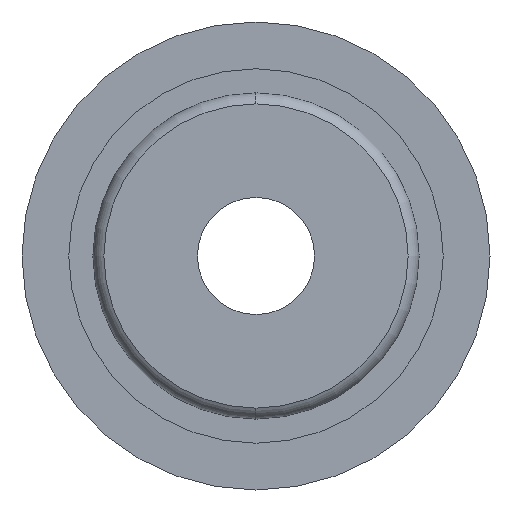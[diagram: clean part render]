
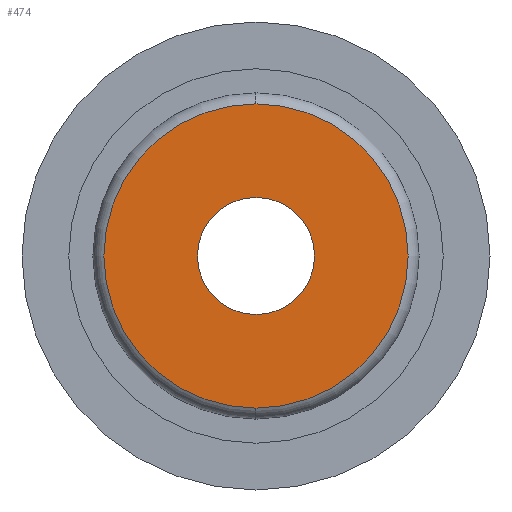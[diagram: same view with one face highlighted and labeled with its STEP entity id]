
A CAD part, left-side view. The second image highlights one B-rep face of the part: STEP entity #474.
In plain terms, the highlighted planar face has unit normal (-1, 0, 0).
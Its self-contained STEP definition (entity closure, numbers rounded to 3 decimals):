
#34 = CARTESIAN_POINT ( 'NONE',  ( 12.582, 0., 2.5 ) ) ;
#36 = CARTESIAN_POINT ( 'NONE',  ( 12.582, 0., 6.5 ) ) ;
#40 = DIRECTION ( 'NONE',  ( -1., 0., 0. ) ) ;
#49 = FACE_OUTER_BOUND ( 'NONE', #1062, .T. ) ;
#50 = CIRCLE ( 'NONE', #114, 2.5 ) ;
#59 = CIRCLE ( 'NONE', #411, 2.5 ) ;
#68 = CARTESIAN_POINT ( 'NONE',  ( 12.582, 0., -6.5 ) ) ;
#80 = DIRECTION ( 'NONE',  ( 0., 0., -1. ) ) ;
#83 = ORIENTED_EDGE ( 'NONE', *, *, #94, .T. ) ;
#94 = EDGE_CURVE ( 'NONE', #680, #435, #886, .T. ) ;
#114 = AXIS2_PLACEMENT_3D ( 'NONE', #383, #954, #455 ) ;
#133 = ORIENTED_EDGE ( 'NONE', *, *, #980, .T. ) ;
#171 = PLANE ( 'NONE',  #646 ) ;
#232 = EDGE_LOOP ( 'NONE', ( #893, #468 ) ) ;
#303 = FACE_BOUND ( 'NONE', #232, .T. ) ;
#358 = CARTESIAN_POINT ( 'NONE',  ( 12.582, 0., 0. ) ) ;
#362 = AXIS2_PLACEMENT_3D ( 'NONE', #906, #418, #1001 ) ;
#383 = CARTESIAN_POINT ( 'NONE',  ( 12.582, 0., 0. ) ) ;
#411 = AXIS2_PLACEMENT_3D ( 'NONE', #539, #40, #618 ) ;
#418 = DIRECTION ( 'NONE',  ( -1., 0., 0. ) ) ;
#420 = CARTESIAN_POINT ( 'NONE',  ( 12.582, 2.5, 0. ) ) ;
#435 = VERTEX_POINT ( 'NONE', #68 ) ;
#455 = DIRECTION ( 'NONE',  ( 0., 0., 1. ) ) ;
#468 = ORIENTED_EDGE ( 'NONE', *, *, #693, .F. ) ;
#474 = ADVANCED_FACE ( 'NONE', ( #303, #49 ), #171, .F. ) ;
#539 = CARTESIAN_POINT ( 'NONE',  ( 12.582, 0., 0. ) ) ;
#584 = VERTEX_POINT ( 'NONE', #645 ) ;
#618 = DIRECTION ( 'NONE',  ( 0., 0., 1. ) ) ;
#645 = CARTESIAN_POINT ( 'NONE',  ( 12.582, 0., -2.5 ) ) ;
#646 = AXIS2_PLACEMENT_3D ( 'NONE', #420, #900, #80 ) ;
#680 = VERTEX_POINT ( 'NONE', #36 ) ;
#693 = EDGE_CURVE ( 'NONE', #584, #815, #59, .T. ) ;
#700 = DIRECTION ( 'NONE',  ( 0., 0., 1. ) ) ;
#797 = CIRCLE ( 'NONE', #362, 6.5 ) ;
#815 = VERTEX_POINT ( 'NONE', #34 ) ;
#850 = DIRECTION ( 'NONE',  ( -1., 0., 0. ) ) ;
#854 = EDGE_CURVE ( 'NONE', #815, #584, #50, .T. ) ;
#886 = CIRCLE ( 'NONE', #1083, 6.5 ) ;
#893 = ORIENTED_EDGE ( 'NONE', *, *, #854, .F. ) ;
#900 = DIRECTION ( 'NONE',  ( 1., 0., 0. ) ) ;
#906 = CARTESIAN_POINT ( 'NONE',  ( 12.582, 0., 0. ) ) ;
#954 = DIRECTION ( 'NONE',  ( -1., 0., 0. ) ) ;
#980 = EDGE_CURVE ( 'NONE', #435, #680, #797, .T. ) ;
#1001 = DIRECTION ( 'NONE',  ( 0., 0., 1. ) ) ;
#1062 = EDGE_LOOP ( 'NONE', ( #83, #133 ) ) ;
#1083 = AXIS2_PLACEMENT_3D ( 'NONE', #358, #850, #700 ) ;
